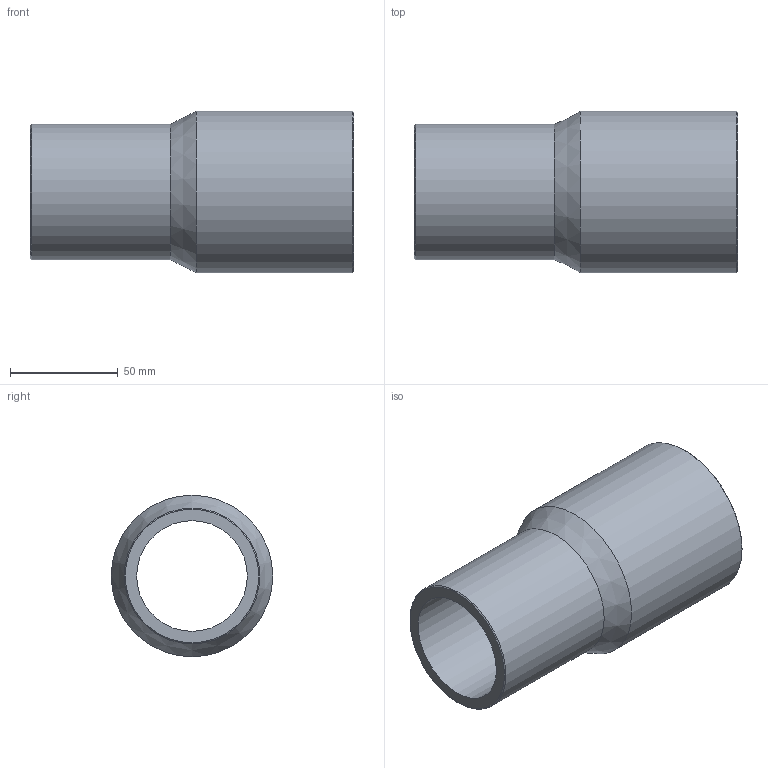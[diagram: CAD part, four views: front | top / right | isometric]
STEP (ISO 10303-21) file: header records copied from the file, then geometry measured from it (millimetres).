
FILE_DESCRIPTION(/* description */ ('Unknown'),/* implementation_level */ '2;1');
FILE_NAME(/* name */ 'RP075063C',/* time_stamp */ '2021-09-17T15:04:44+02:00',/* author */ ('Unknown'),/* organization */ ('Unknown'),/* preprocessor_version */ 'ST-DEVELOPER v16.7',/* originating_system */ 'Solid Edge',/* authorisation */ 'Unknown');
FILE_SCHEMA (('AUTOMOTIVE_DESIGN {1 0 10303 214 3 1 1}'));
Length unit declared in the file: millimetre
Products named in the file (1): RP075063C
Bounding box: 150 x 75 x 75 mm (x, y, z)
Volume: 192545.6 mm3; surface area: 62076.2 mm2
Topology: 1 solids, 1 shells, 10 faces, 19 edges, 11 vertices
Faces by surface type: cylinder 4, cone 4, plane 2
Full cylindrical faces by diameter (mm): 51.4 x1, 61.4 x1, 63 x1, 75 x1
Entity records: 238 total; most frequent: DIRECTION 42, CARTESIAN_POINT 31, AXIS2_PLACEMENT_3D 21, ORIENTED_EDGE 20, EDGE_LOOP 20, FACE_BOUND 20, EDGE_CURVE 10, VERTEX_POINT 10
